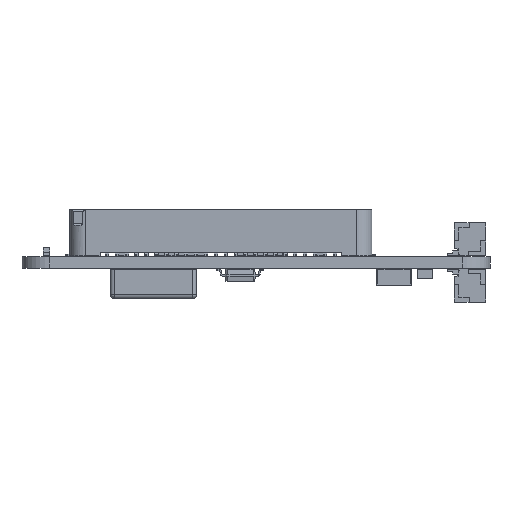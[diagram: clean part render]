
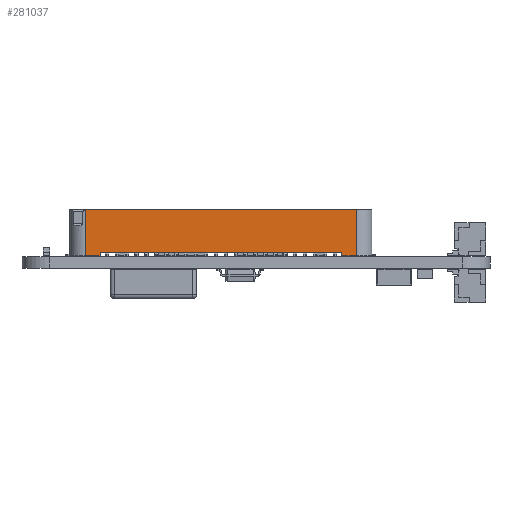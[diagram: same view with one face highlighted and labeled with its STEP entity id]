
A CAD part, left-side view. The second image highlights one B-rep face of the part: STEP entity #281037.
In plain terms, the highlighted planar face has unit normal (-1, 0, 0) as drawn and (1, 0, 0) by its records, which use the part's own axes.
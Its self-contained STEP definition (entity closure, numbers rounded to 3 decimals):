
#38395=FACE_OUTER_BOUND('',#48845,.T.);
#48845=EDGE_LOOP('',(#212962,#212963,#212964,#212965,#212966,#212967,#212968,
#212969));
#61100=LINE('',#461666,#98212);
#61385=LINE('',#462229,#98497);
#61390=LINE('',#462245,#98502);
#61407=LINE('',#462300,#98519);
#61409=LINE('',#462312,#98521);
#61410=LINE('',#462314,#98522);
#61411=LINE('',#462315,#98523);
#61412=LINE('',#462316,#98524);
#98212=VECTOR('',#375698,1.);
#98497=VECTOR('',#376003,1.);
#98502=VECTOR('',#376016,1.);
#98519=VECTOR('',#376063,1.);
#98521=VECTOR('',#376075,1.);
#98522=VECTOR('',#376076,1.);
#98523=VECTOR('',#376077,1.);
#98524=VECTOR('',#376078,1.);
#134993=VERTEX_POINT('',#461663);
#134994=VERTEX_POINT('',#461665);
#135261=VERTEX_POINT('',#462226);
#135262=VERTEX_POINT('',#462228);
#135268=VERTEX_POINT('',#462242);
#135269=VERTEX_POINT('',#462244);
#135297=VERTEX_POINT('',#462311);
#135298=VERTEX_POINT('',#462313);
#171055=EDGE_CURVE('',#134993,#134994,#61100,.T.);
#171345=EDGE_CURVE('',#135262,#135261,#61385,.T.);
#171353=EDGE_CURVE('',#135269,#135268,#61390,.T.);
#171381=EDGE_CURVE('',#134993,#135262,#61407,.T.);
#171387=EDGE_CURVE('',#135297,#135261,#61409,.T.);
#171388=EDGE_CURVE('',#135298,#135297,#61410,.T.);
#171389=EDGE_CURVE('',#135298,#135269,#61411,.T.);
#171390=EDGE_CURVE('',#134994,#135268,#61412,.T.);
#212962=ORIENTED_EDGE('',*,*,#171345,.T.);
#212963=ORIENTED_EDGE('',*,*,#171387,.F.);
#212964=ORIENTED_EDGE('',*,*,#171388,.F.);
#212965=ORIENTED_EDGE('',*,*,#171389,.T.);
#212966=ORIENTED_EDGE('',*,*,#171353,.T.);
#212967=ORIENTED_EDGE('',*,*,#171390,.F.);
#212968=ORIENTED_EDGE('',*,*,#171055,.F.);
#212969=ORIENTED_EDGE('',*,*,#171381,.T.);
#265421=PLANE('',#349770);
#281037=ADVANCED_FACE('',(#38395),#265421,.F.);
#349770=AXIS2_PLACEMENT_3D('',#462310,#376073,#376074);
#375698=DIRECTION('',(0.,0.,-1.));
#376003=DIRECTION('',(0.,0.,-1.));
#376016=DIRECTION('',(0.,0.,-1.));
#376063=DIRECTION('',(0.,-1.,0.));
#376073=DIRECTION('center_axis',(-1.,0.,0.));
#376074=DIRECTION('ref_axis',(0.,0.,1.));
#376075=DIRECTION('',(0.,-1.,0.));
#376076=DIRECTION('',(0.,0.,1.));
#376077=DIRECTION('',(0.,-1.,0.));
#376078=DIRECTION('',(0.,-1.,0.));
#461663=CARTESIAN_POINT('',(16.1,5.9,17.35));
#461665=CARTESIAN_POINT('',(16.1,5.9,-17.35));
#461666=CARTESIAN_POINT('',(16.1,5.9,17.35));
#462226=CARTESIAN_POINT('',(16.1,0.,15.5));
#462228=CARTESIAN_POINT('',(16.1,0.,17.35));
#462229=CARTESIAN_POINT('',(16.1,0.,17.35));
#462242=CARTESIAN_POINT('',(16.1,0.,-17.35));
#462244=CARTESIAN_POINT('',(16.1,0.,-15.5));
#462245=CARTESIAN_POINT('',(16.1,0.,17.35));
#462300=CARTESIAN_POINT('',(16.1,5.9,17.35));
#462310=CARTESIAN_POINT('Origin',(16.1,5.9,17.35));
#462311=CARTESIAN_POINT('',(16.1,0.5,15.5));
#462312=CARTESIAN_POINT('',(16.1,0.5,15.5));
#462313=CARTESIAN_POINT('',(16.1,0.5,-15.5));
#462314=CARTESIAN_POINT('',(16.1,0.5,-15.5));
#462315=CARTESIAN_POINT('',(16.1,0.5,-15.5));
#462316=CARTESIAN_POINT('',(16.1,5.9,-17.35));
